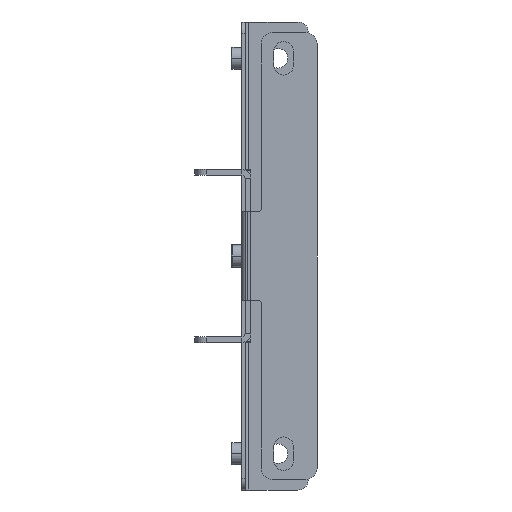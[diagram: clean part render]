
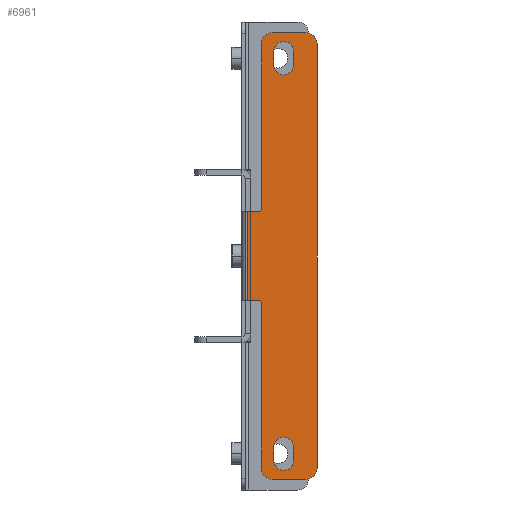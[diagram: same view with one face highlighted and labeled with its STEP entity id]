
A CAD part, left-side view. The second image highlights one B-rep face of the part: STEP entity #6961.
In plain terms, the highlighted planar face has unit normal (-1, 0, 0) as drawn and (0, -1, 0) by its records, which use the part's own axes.
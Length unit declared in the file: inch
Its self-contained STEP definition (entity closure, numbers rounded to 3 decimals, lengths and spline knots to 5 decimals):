
#6125=CARTESIAN_POINT('',(0.25,0.,-1.));
#6126=DIRECTION('',(0.,-1.,0.));
#6127=DIRECTION('',(-1.,0.,0.));
#6128=AXIS2_PLACEMENT_3D('',#6125,#6126,#6127);
#6133=DIRECTION('',(0.,0.,-1.));
#6134=VECTOR('',#6133,0.75);
#6135=CARTESIAN_POINT('',(0.,0.,-0.25));
#6136=LINE('',#6135,#6134);
#6140=CARTESIAN_POINT('',(0.25,0.,-0.25));
#6141=DIRECTION('',(0.,-1.,0.));
#6142=DIRECTION('',(0.,0.,1.));
#6143=AXIS2_PLACEMENT_3D('',#6140,#6141,#6142);
#6148=CARTESIAN_POINT('',(9.75,0.,-0.25));
#6149=DIRECTION('',(0.,-1.,0.));
#6150=DIRECTION('',(1.,0.,0.));
#6151=AXIS2_PLACEMENT_3D('',#6148,#6149,#6150);
#6156=CARTESIAN_POINT('',(9.75,0.,-1.));
#6157=DIRECTION('',(0.,-1.,0.));
#6158=DIRECTION('',(0.,0.,-1.));
#6159=AXIS2_PLACEMENT_3D('',#6156,#6157,#6158);
#6164=CARTESIAN_POINT('',(9.5836,0.,-0.75));
#6165=DIRECTION('',(0.,1.,0.));
#6166=DIRECTION('',(0.,0.,1.));
#6167=AXIS2_PLACEMENT_3D('',#6164,#6165,#6166);
#6172=DIRECTION('',(-1.,0.,0.));
#6173=VECTOR('',#6172,0.31);
#6174=CARTESIAN_POINT('',(9.5836,0.,-0.53));
#6175=LINE('',#6174,#6173);
#6179=CARTESIAN_POINT('',(9.2736,0.,-0.75));
#6180=DIRECTION('',(0.,1.,0.));
#6181=DIRECTION('',(0.,0.,-1.));
#6182=AXIS2_PLACEMENT_3D('',#6179,#6180,#6181);
#6187=DIRECTION('',(1.,0.,0.));
#6188=VECTOR('',#6187,0.31);
#6189=CARTESIAN_POINT('',(9.2736,0.,-0.97));
#6190=LINE('',#6189,#6188);
#6194=DIRECTION('',(1.,0.,0.));
#6195=VECTOR('',#6194,0.31);
#6196=CARTESIAN_POINT('',(0.4164,0.,-0.97));
#6197=LINE('',#6196,#6195);
#6201=CARTESIAN_POINT('',(0.7264,0.,-0.75));
#6202=DIRECTION('',(0.,1.,0.));
#6203=DIRECTION('',(0.,0.,1.));
#6204=AXIS2_PLACEMENT_3D('',#6201,#6202,#6203);
#6209=DIRECTION('',(-1.,0.,0.));
#6210=VECTOR('',#6209,0.31);
#6211=CARTESIAN_POINT('',(0.7264,0.,-0.53));
#6212=LINE('',#6211,#6210);
#6216=CARTESIAN_POINT('',(0.4164,0.,-0.75));
#6217=DIRECTION('',(0.,1.,0.));
#6218=DIRECTION('',(0.,0.,-1.));
#6219=AXIS2_PLACEMENT_3D('',#6216,#6217,#6218);
#6259=DIRECTION('',(1.,0.,0.));
#6260=VECTOR('',#6259,9.5);
#6261=CARTESIAN_POINT('',(0.25,0.,0.));
#6262=LINE('',#6261,#6260);
#6287=DIRECTION('',(0.,0.,-1.));
#6288=VECTOR('',#6287,0.75);
#6289=CARTESIAN_POINT('',(10.,0.,-0.25));
#6290=LINE('',#6289,#6288);
#6315=DIRECTION('',(1.,0.,0.));
#6316=VECTOR('',#6315,3.6875);
#6317=CARTESIAN_POINT('',(6.0625,0.,-1.25));
#6318=LINE('',#6317,#6316);
#6330=CARTESIAN_POINT('',(6.0625,0.,-1.3125));
#6331=DIRECTION('',(0.,1.,0.));
#6332=DIRECTION('',(-1.,0.,0.));
#6333=AXIS2_PLACEMENT_3D('',#6330,#6331,#6332);
#6352=DIRECTION('',(0.,0.,1.));
#6353=VECTOR('',#6352,0.255);
#6354=CARTESIAN_POINT('',(6.,0.,-1.5675));
#6355=LINE('',#6354,#6353);
#6381=DIRECTION('',(-1.,0.,0.));
#6382=VECTOR('',#6381,2.);
#6383=CARTESIAN_POINT('',(6.,0.,-1.5675));
#6384=LINE('',#6383,#6382);
#6581=DIRECTION('',(0.,0.,-1.));
#6582=VECTOR('',#6581,0.255);
#6583=CARTESIAN_POINT('',(4.,0.,-1.3125));
#6584=LINE('',#6583,#6582);
#6610=CARTESIAN_POINT('',(3.9375,0.,-1.3125));
#6611=DIRECTION('',(0.,1.,0.));
#6612=DIRECTION('',(0.,0.,1.));
#6613=AXIS2_PLACEMENT_3D('',#6610,#6611,#6612);
#6625=DIRECTION('',(1.,0.,0.));
#6626=VECTOR('',#6625,3.6875);
#6627=CARTESIAN_POINT('',(0.25,0.,-1.25));
#6628=LINE('',#6627,#6626);
#6720=CARTESIAN_POINT('',(4.,0.,-1.5675));
#6721=VERTEX_POINT('',#6720);
#6722=CARTESIAN_POINT('',(6.,0.,-1.5675));
#6723=VERTEX_POINT('',#6722);
#6748=CARTESIAN_POINT('',(0.,0.,-1.));
#6749=CARTESIAN_POINT('',(0.25,0.,-1.25));
#6750=VERTEX_POINT('',#6748);
#6751=VERTEX_POINT('',#6749);
#6756=CARTESIAN_POINT('',(0.25,0.,0.));
#6757=CARTESIAN_POINT('',(0.,0.,-0.25));
#6758=VERTEX_POINT('',#6756);
#6759=VERTEX_POINT('',#6757);
#6764=CARTESIAN_POINT('',(10.,0.,-0.25));
#6765=CARTESIAN_POINT('',(9.75,0.,0.));
#6766=VERTEX_POINT('',#6764);
#6767=VERTEX_POINT('',#6765);
#6772=CARTESIAN_POINT('',(9.75,0.,-1.25));
#6773=CARTESIAN_POINT('',(10.,0.,-1.));
#6774=VERTEX_POINT('',#6772);
#6775=VERTEX_POINT('',#6773);
#6796=CARTESIAN_POINT('',(0.4164,0.,-0.97));
#6797=CARTESIAN_POINT('',(0.7264,0.,-0.97));
#6798=VERTEX_POINT('',#6796);
#6799=VERTEX_POINT('',#6797);
#6800=CARTESIAN_POINT('',(0.7264,0.,-0.53));
#6801=VERTEX_POINT('',#6800);
#6802=CARTESIAN_POINT('',(0.4164,0.,-0.53));
#6803=VERTEX_POINT('',#6802);
#6804=CARTESIAN_POINT('',(9.5836,0.,-0.53));
#6805=CARTESIAN_POINT('',(9.5836,0.,-0.97));
#6806=VERTEX_POINT('',#6804);
#6807=VERTEX_POINT('',#6805);
#6808=CARTESIAN_POINT('',(9.2736,0.,-0.53));
#6809=VERTEX_POINT('',#6808);
#6810=CARTESIAN_POINT('',(9.2736,0.,-0.97));
#6811=VERTEX_POINT('',#6810);
#6821=CARTESIAN_POINT('',(6.0625,0.,-1.25));
#6823=VERTEX_POINT('',#6821);
#6825=CARTESIAN_POINT('',(6.,0.,-1.3125));
#6827=VERTEX_POINT('',#6825);
#6829=CARTESIAN_POINT('',(4.,0.,-1.3125));
#6831=VERTEX_POINT('',#6829);
#6833=CARTESIAN_POINT('',(3.9375,0.,-1.25));
#6835=VERTEX_POINT('',#6833);
#6907=CARTESIAN_POINT('',(0.,0.,0.));
#6908=DIRECTION('',(0.,-1.,0.));
#6909=DIRECTION('',(1.,0.,0.));
#6910=AXIS2_PLACEMENT_3D('',#6907,#6908,#6909);
#6911=PLANE('',#6910);
#6912=ORIENTED_EDGE('',*,*,#6897,.F.);
#6914=ORIENTED_EDGE('',*,*,#6913,.F.);
#6916=ORIENTED_EDGE('',*,*,#6915,.F.);
#6918=ORIENTED_EDGE('',*,*,#6917,.T.);
#6920=ORIENTED_EDGE('',*,*,#6919,.F.);
#6922=ORIENTED_EDGE('',*,*,#6921,.T.);
#6924=ORIENTED_EDGE('',*,*,#6923,.F.);
#6926=ORIENTED_EDGE('',*,*,#6925,.F.);
#6928=ORIENTED_EDGE('',*,*,#6927,.F.);
#6930=ORIENTED_EDGE('',*,*,#6929,.F.);
#6932=ORIENTED_EDGE('',*,*,#6931,.T.);
#6934=ORIENTED_EDGE('',*,*,#6933,.F.);
#6936=ORIENTED_EDGE('',*,*,#6935,.F.);
#6938=ORIENTED_EDGE('',*,*,#6937,.F.);
#6939=EDGE_LOOP('',(#6912,#6914,#6916,#6918,#6920,#6922,#6924,#6926,#6928,#6930,
#6932,#6934,#6936,#6938));
#6940=FACE_OUTER_BOUND('',#6939,.F.);
#6942=ORIENTED_EDGE('',*,*,#6941,.F.);
#6944=ORIENTED_EDGE('',*,*,#6943,.T.);
#6946=ORIENTED_EDGE('',*,*,#6945,.F.);
#6948=ORIENTED_EDGE('',*,*,#6947,.T.);
#6949=EDGE_LOOP('',(#6942,#6944,#6946,#6948));
#6950=FACE_BOUND('',#6949,.F.);
#6952=ORIENTED_EDGE('',*,*,#6951,.T.);
#6954=ORIENTED_EDGE('',*,*,#6953,.F.);
#6956=ORIENTED_EDGE('',*,*,#6955,.T.);
#6958=ORIENTED_EDGE('',*,*,#6957,.F.);
#6959=EDGE_LOOP('',(#6952,#6954,#6956,#6958));
#6960=FACE_BOUND('',#6959,.F.);
#6129=CIRCLE('',#6128,0.25);
#6144=CIRCLE('',#6143,0.25);
#6152=CIRCLE('',#6151,0.25);
#6160=CIRCLE('',#6159,0.25);
#6168=CIRCLE('',#6167,0.22);
#6183=CIRCLE('',#6182,0.22);
#6205=CIRCLE('',#6204,0.22);
#6220=CIRCLE('',#6219,0.22);
#6334=CIRCLE('',#6333,0.0625);
#6614=CIRCLE('',#6613,0.0625);
#6897=EDGE_CURVE('',#6750,#6751,#6129,.T.);
#6913=EDGE_CURVE('',#6759,#6750,#6136,.T.);
#6915=EDGE_CURVE('',#6758,#6759,#6144,.T.);
#6917=EDGE_CURVE('',#6758,#6767,#6262,.T.);
#6919=EDGE_CURVE('',#6766,#6767,#6152,.T.);
#6921=EDGE_CURVE('',#6766,#6775,#6290,.T.);
#6923=EDGE_CURVE('',#6774,#6775,#6160,.T.);
#6925=EDGE_CURVE('',#6823,#6774,#6318,.T.);
#6927=EDGE_CURVE('',#6827,#6823,#6334,.T.);
#6929=EDGE_CURVE('',#6723,#6827,#6355,.T.);
#6931=EDGE_CURVE('',#6723,#6721,#6384,.T.);
#6933=EDGE_CURVE('',#6831,#6721,#6584,.T.);
#6935=EDGE_CURVE('',#6835,#6831,#6614,.T.);
#6937=EDGE_CURVE('',#6751,#6835,#6628,.T.);
#6941=EDGE_CURVE('',#6806,#6807,#6168,.T.);
#6943=EDGE_CURVE('',#6806,#6809,#6175,.T.);
#6945=EDGE_CURVE('',#6811,#6809,#6183,.T.);
#6947=EDGE_CURVE('',#6811,#6807,#6190,.T.);
#6951=EDGE_CURVE('',#6798,#6799,#6197,.T.);
#6953=EDGE_CURVE('',#6801,#6799,#6205,.T.);
#6955=EDGE_CURVE('',#6801,#6803,#6212,.T.);
#6957=EDGE_CURVE('',#6798,#6803,#6220,.T.);
#6961=ADVANCED_FACE('',(#6940,#6950,#6960),#6911,.T.);
